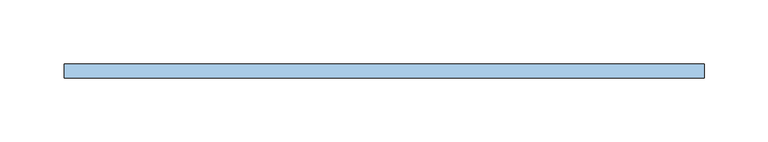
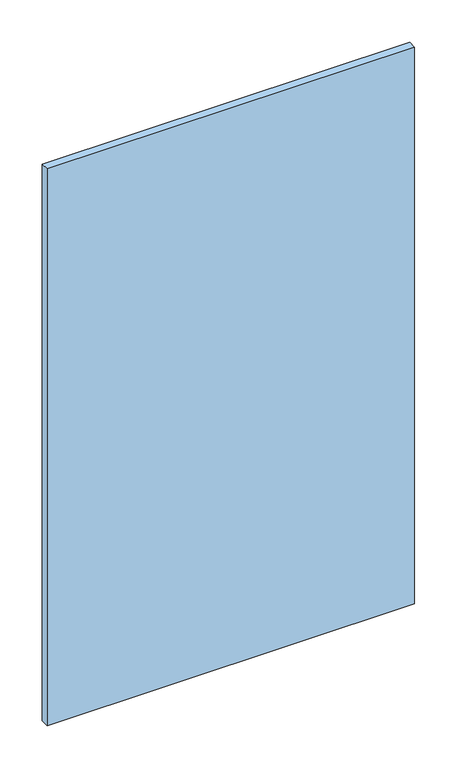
"""IFC4 building model written with IfcOpenShell, lengths in millimetres: window geometry, espejo biselado sin marco : ESP-SERV."""

from ifc_helpers import new_model, si_unit, frame, origin, place, context, project, spatial, polyline, outline, extrude, source, transform, mapped, element, save


def window_4ea1ba50(model_context):
    return source(origin(), model_context, "Body", "SweptSolid", [
        extrude(outline(polyline([(-250.0, -99.0), (250.0, -99.0), (250.0, -110.0), (-250.0, -110.0), (-250.0, -99.0)])), frame((0.0, 0.0, 200.0), z_axis=(0.0, 0.0, 1.0), x_axis=(1.0, 0.0, 0.0)), (0.0, 0.0, 1.0), 800.0),
    ])


if __name__ == "__main__":
    model = new_model("IFC4")
    model_context = context("Model", 3, world=origin())
    ifc_project = project(units=[si_unit("LENGTHUNIT", "METRE", prefix="MILLI")], contexts=[model_context])
    site = spatial("IfcSite", under=ifc_project)
    building = spatial("IfcBuilding", under=site)
    placement = place(None, origin())
    window_shape = window_4ea1ba50(model_context)
    element("IfcWindow", 1, ObjectType="espejo biselado sin marco : ESP-SERV", at=placement, inside=building, context=model_context, shape_type="MappedRepresentation", body=[
        mapped(window_shape, transform((0.0, 0.0, 0.0), x_axis=(1.0, 0.0, 0.0), y_axis=(0.0, 1.0, 0.0), z_axis=(0.0, 0.0, 1.0))),
    ])
    save(model, "model.ifc")
